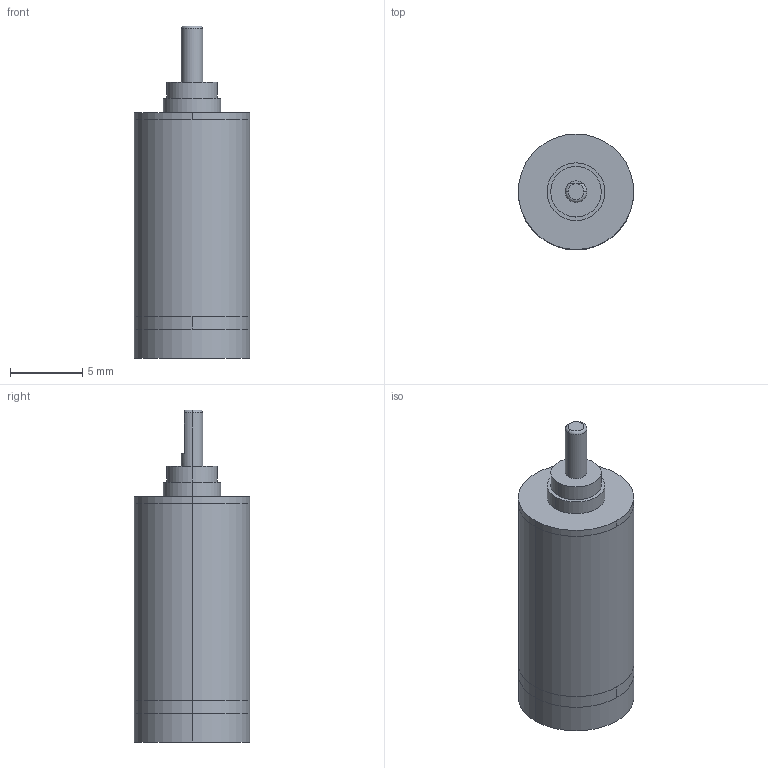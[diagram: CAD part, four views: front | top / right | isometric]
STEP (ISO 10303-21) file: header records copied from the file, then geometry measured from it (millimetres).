
FILE_DESCRIPTION (( 'STEP AP203' ), '1' );
FILE_NAME ('IG-08(II)-3stage.STEP', '2023-03-23T01:35:50', ( '' ), ( '' ), 'SwSTEP 2.0', 'SolidWorks 2019', '' );
FILE_SCHEMA (( 'CONFIG_CONTROL_DESIGN' ));
Length unit declared in the file: millimetre
Products named in the file (1): IG-08(II)-3stage
Bounding box: 8 x 8 x 23 mm (x, y, z)
Volume: 930.3 mm3; surface area: 844.1 mm2
Topology: 3 solids, 3 shells, 35 faces, 66 edges, 43 vertices
Faces by surface type: cylinder 18, plane 14, torus 3
Entity records: 982 total; most frequent: DIRECTION 179, CARTESIAN_POINT 159, ORIENTED_EDGE 132, AXIS2_PLACEMENT_3D 79, EDGE_CURVE 66, VERTEX_POINT 43, CIRCLE 43, EDGE_LOOP 41
